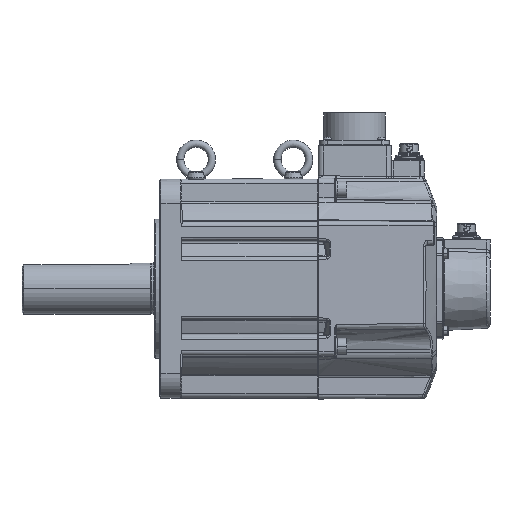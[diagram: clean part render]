
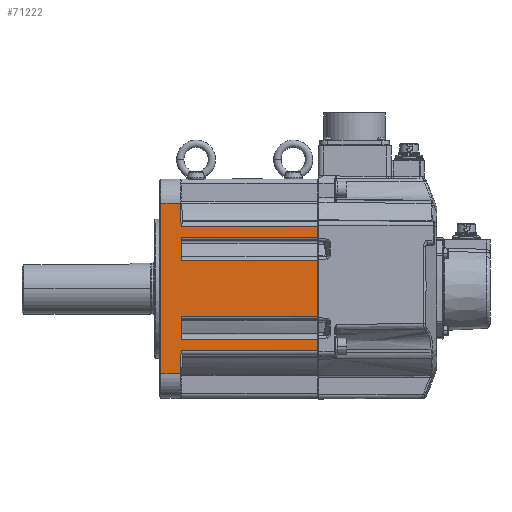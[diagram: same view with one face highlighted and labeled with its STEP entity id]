
A CAD part, left-side view. The second image highlights one B-rep face of the part: STEP entity #71222.
In plain terms, the highlighted planar face has unit normal (-1, 0, 0).
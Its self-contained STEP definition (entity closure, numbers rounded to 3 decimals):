
#9451=DIRECTION('',(0.,0.,-1.));
#9452=VECTOR('',#9451,9.155);
#9453=CARTESIAN_POINT('',(-90.,-103.3,51.103));
#9454=LINE('',#9453,#9452);
#13667=CARTESIAN_POINT('',(-90.,9.151,
70.));
#13669=DIRECTION('',(0.,1.,0.));
#13670=VECTOR('',#13669,16.349);
#13671=CARTESIAN_POINT('',(-90.,9.151,
70.));
#13672=LINE('',#13671,#13670);
#13838=DIRECTION('',(0.,1.,0.));
#13839=VECTOR('',#13838,111.8);
#13840=CARTESIAN_POINT('',(-90.,-103.3,41.948));
#13841=LINE('',#13840,#13839);
#13842=DIRECTION('',(0.,1.,0.));
#13843=VECTOR('',#13842,111.8);
#13844=CARTESIAN_POINT('',(-90.,-103.3,23.052));
#13845=LINE('',#13844,#13843);
#13846=DIRECTION('',(0.,0.,-1.));
#13847=VECTOR('',#13846,46.103);
#13848=CARTESIAN_POINT('',(-90.,-103.3,23.052));
#13849=LINE('',#13848,#13847);
#13850=DIRECTION('',(0.,1.,0.));
#13851=VECTOR('',#13850,111.8);
#13852=CARTESIAN_POINT('',(-90.,-103.3,-23.052));
#13853=LINE('',#13852,#13851);
#13854=DIRECTION('',(0.,1.,0.));
#13855=VECTOR('',#13854,111.8);
#13856=CARTESIAN_POINT('',(-90.,-103.3,-41.948));
#13857=LINE('',#13856,#13855);
#13858=DIRECTION('',(0.,1.,0.));
#13859=VECTOR('',#13858,112.121);
#13860=CARTESIAN_POINT('',(-90.,-103.3,-51.103));
#13861=LINE('',#13860,#13859);
#13862=DIRECTION('',(0.,1.,0.));
#13863=VECTOR('',#13862,16.349);
#13864=CARTESIAN_POINT('',(-90.,9.151,
-70.));
#13865=LINE('',#13864,#13863);
#13866=DIRECTION('',(0.,0.,1.));
#13867=VECTOR('',#13866,140.);
#13868=CARTESIAN_POINT('',(-90.,25.5,
-70.));
#13869=LINE('',#13868,#13867);
#13870=DIRECTION('',(0.,-1.,0.));
#13871=VECTOR('',#13870,112.121);
#13872=CARTESIAN_POINT('',(-90.,8.821,51.103));
#13873=LINE('',#13872,#13871);
#14351=DIRECTION('',(0.,0.,-1.));
#14352=VECTOR('',#14351,9.155);
#14353=CARTESIAN_POINT('',(-90.,-103.3,-41.948));
#14354=LINE('',#14353,#14352);
#15370=CARTESIAN_POINT('',(-90.,9.151,
-70.));
#15523=DIRECTION('',(0.,-0.017,1.));
#15524=VECTOR('',#15523,18.9);
#15525=CARTESIAN_POINT('',(-90.,9.151,
-70.));
#15526=LINE('',#15525,#15524);
#15688=DIRECTION('',(0.,0.,1.));
#15689=VECTOR('',#15688,18.897);
#15690=CARTESIAN_POINT('',(-90.,8.5,-41.948));
#15691=LINE('',#15690,#15689);
#15813=DIRECTION('',(0.,0.,1.));
#15814=VECTOR('',#15813,18.897);
#15815=CARTESIAN_POINT('',(-90.,8.5,23.052));
#15816=LINE('',#15815,#15814);
#15847=DIRECTION('',(0.,0.017,1.));
#15848=VECTOR('',#15847,18.9);
#15849=CARTESIAN_POINT('',(-90.,8.821,51.103));
#15850=LINE('',#15849,#15848);
#47818=CARTESIAN_POINT('',(-90.,25.5,-70.));
#47819=VERTEX_POINT('',#47818);
#47822=CARTESIAN_POINT('',(-90.,25.5,
70.));
#47823=VERTEX_POINT('',#47822);
#47909=VERTEX_POINT('',#13667);
#47912=VERTEX_POINT('',#15370);
#48032=CARTESIAN_POINT('',(-90.,-103.3,41.948));
#48033=CARTESIAN_POINT('',(-90.,8.5,41.948));
#48034=VERTEX_POINT('',#48032);
#48035=VERTEX_POINT('',#48033);
#48044=CARTESIAN_POINT('',(-90.,-103.3,23.052));
#48045=VERTEX_POINT('',#48044);
#48046=CARTESIAN_POINT('',(-90.,8.5,23.052));
#48047=VERTEX_POINT('',#48046);
#48052=CARTESIAN_POINT('',(-90.,-103.3,-41.948));
#48053=VERTEX_POINT('',#48052);
#48054=CARTESIAN_POINT('',(-90.,8.5,-41.948));
#48055=VERTEX_POINT('',#48054);
#48056=CARTESIAN_POINT('',(-90.,-103.3,-23.052));
#48057=CARTESIAN_POINT('',(-90.,8.5,-23.052));
#48058=VERTEX_POINT('',#48056);
#48059=VERTEX_POINT('',#48057);
#48152=CARTESIAN_POINT('',(-90.,-103.3,-51.103));
#48153=CARTESIAN_POINT('',(-90.,8.821,-51.103));
#48154=VERTEX_POINT('',#48152);
#48155=VERTEX_POINT('',#48153);
#48161=CARTESIAN_POINT('',(-90.,-103.3,51.103));
#48163=VERTEX_POINT('',#48161);
#48164=CARTESIAN_POINT('',(-90.,8.821,51.103));
#48165=VERTEX_POINT('',#48164);
#71187=CARTESIAN_POINT('',(-90.,26.5,-70.));
#71188=DIRECTION('',(-1.,0.,0.));
#71189=DIRECTION('',(0.,0.,1.));
#71190=AXIS2_PLACEMENT_3D('',#71187,#71188,#71189);
#71191=PLANE('',#71190);
#71193=ORIENTED_EDGE('',*,*,#71192,.T.);
#71195=ORIENTED_EDGE('',*,*,#71194,.F.);
#71197=ORIENTED_EDGE('',*,*,#71196,.F.);
#71199=ORIENTED_EDGE('',*,*,#71198,.T.);
#71201=ORIENTED_EDGE('',*,*,#71200,.T.);
#71203=ORIENTED_EDGE('',*,*,#71202,.F.);
#71205=ORIENTED_EDGE('',*,*,#71204,.F.);
#71207=ORIENTED_EDGE('',*,*,#71206,.T.);
#71209=ORIENTED_EDGE('',*,*,#71208,.T.);
#71211=ORIENTED_EDGE('',*,*,#71210,.F.);
#71213=ORIENTED_EDGE('',*,*,#71212,.T.);
#71214=ORIENTED_EDGE('',*,*,#70954,.T.);
#71215=ORIENTED_EDGE('',*,*,#70995,.F.);
#71217=ORIENTED_EDGE('',*,*,#71216,.F.);
#71218=ORIENTED_EDGE('',*,*,#71178,.T.);
#71219=ORIENTED_EDGE('',*,*,#67021,.T.);
#71220=EDGE_LOOP('',(#71193,#71195,#71197,#71199,#71201,#71203,#71205,#71207,
#71209,#71211,#71213,#71214,#71215,#71217,#71218,#71219));
#71221=FACE_OUTER_BOUND('',#71220,.F.);
#71222=ADVANCED_FACE('',(#71221),#71191,.T.);
#67021=EDGE_CURVE('',#48163,#48034,#9454,.T.);
#70954=EDGE_CURVE('',#47819,#47823,#13869,.T.);
#70995=EDGE_CURVE('',#47909,#47823,#13672,.T.);
#71178=EDGE_CURVE('',#48165,#48163,#13873,.T.);
#71192=EDGE_CURVE('',#48034,#48035,#13841,.T.);
#71194=EDGE_CURVE('',#48047,#48035,#15816,.T.);
#71196=EDGE_CURVE('',#48045,#48047,#13845,.T.);
#71198=EDGE_CURVE('',#48045,#48058,#13849,.T.);
#71200=EDGE_CURVE('',#48058,#48059,#13853,.T.);
#71202=EDGE_CURVE('',#48055,#48059,#15691,.T.);
#71204=EDGE_CURVE('',#48053,#48055,#13857,.T.);
#71206=EDGE_CURVE('',#48053,#48154,#14354,.T.);
#71208=EDGE_CURVE('',#48154,#48155,#13861,.T.);
#71210=EDGE_CURVE('',#47912,#48155,#15526,.T.);
#71212=EDGE_CURVE('',#47912,#47819,#13865,.T.);
#71216=EDGE_CURVE('',#48165,#47909,#15850,.T.);
